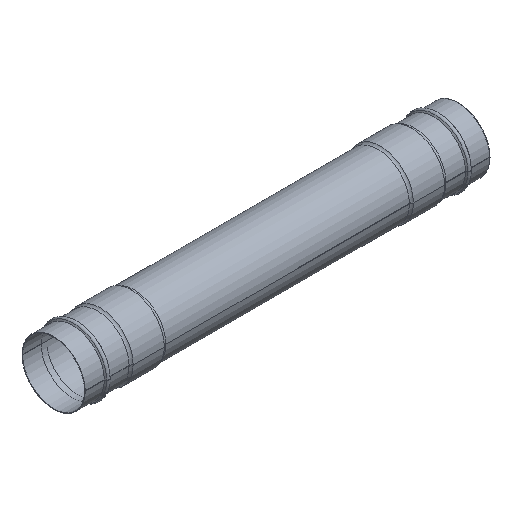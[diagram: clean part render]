
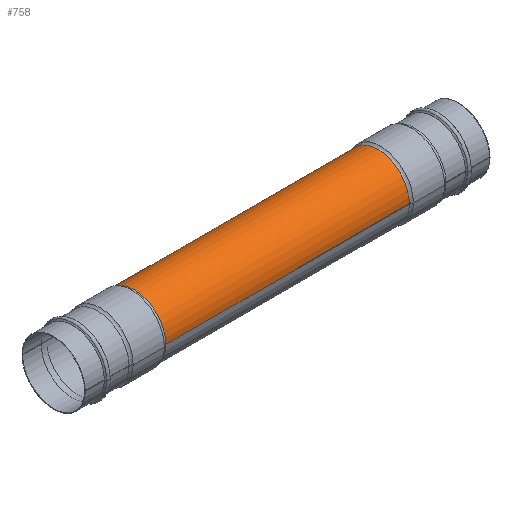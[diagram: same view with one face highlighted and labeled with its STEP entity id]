
A CAD part, isometric view. The second image highlights one B-rep face of the part: STEP entity #758.
In plain terms, the highlighted cylindrical face has radius 50.75 mm (diameter 101.5 mm), a partial arc.
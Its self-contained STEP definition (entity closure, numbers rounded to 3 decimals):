
#79=CARTESIAN_POINT('',(195.528,0.,0.));
#80=DIRECTION('',(1.,0.,0.));
#81=DIRECTION('',(0.,1.,0.));
#82=AXIS2_PLACEMENT_3D('',#79,#80,#81);
#87=CARTESIAN_POINT('',(-195.528,0.,0.));
#88=DIRECTION('',(-1.,0.,0.));
#89=DIRECTION('',(0.,-1.,0.));
#90=AXIS2_PLACEMENT_3D('',#87,#88,#89);
#175=DIRECTION('',(-1.,0.,0.));
#176=VECTOR('',#175,391.056);
#177=CARTESIAN_POINT('',(195.528,50.75,0.));
#178=LINE('',#177,#176);
#190=DIRECTION('',(-1.,0.,0.));
#191=VECTOR('',#190,391.056);
#192=CARTESIAN_POINT('',(195.528,-50.75,0.));
#193=LINE('',#192,#191);
#617=CARTESIAN_POINT('',(195.528,-50.75,0.));
#618=CARTESIAN_POINT('',(195.528,50.75,0.));
#619=VERTEX_POINT('',#617);
#620=VERTEX_POINT('',#618);
#625=CARTESIAN_POINT('',(-195.528,-50.75,0.));
#626=CARTESIAN_POINT('',(-195.528,50.75,0.));
#627=VERTEX_POINT('',#625);
#628=VERTEX_POINT('',#626);
#743=CARTESIAN_POINT('',(-357.5,0.,0.));
#744=DIRECTION('',(1.,0.,0.));
#745=DIRECTION('',(0.,-1.,0.));
#746=AXIS2_PLACEMENT_3D('',#743,#744,#745);
#747=CYLINDRICAL_SURFACE('',#746,50.75);
#749=ORIENTED_EDGE('',*,*,#748,.T.);
#751=ORIENTED_EDGE('',*,*,#750,.T.);
#753=ORIENTED_EDGE('',*,*,#752,.T.);
#755=ORIENTED_EDGE('',*,*,#754,.F.);
#756=EDGE_LOOP('',(#749,#751,#753,#755));
#757=FACE_OUTER_BOUND('',#756,.F.);
#83=CIRCLE('',#82,50.75);
#91=CIRCLE('',#90,50.75);
#748=EDGE_CURVE('',#620,#619,#83,.T.);
#750=EDGE_CURVE('',#619,#627,#193,.T.);
#752=EDGE_CURVE('',#627,#628,#91,.T.);
#754=EDGE_CURVE('',#620,#628,#178,.T.);
#758=ADVANCED_FACE('',(#757),#747,.T.);
